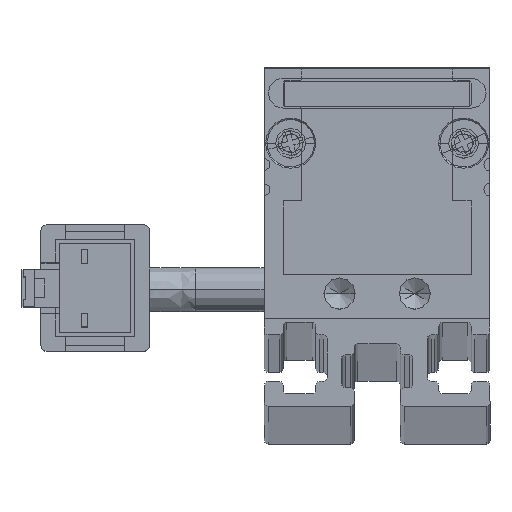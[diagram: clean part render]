
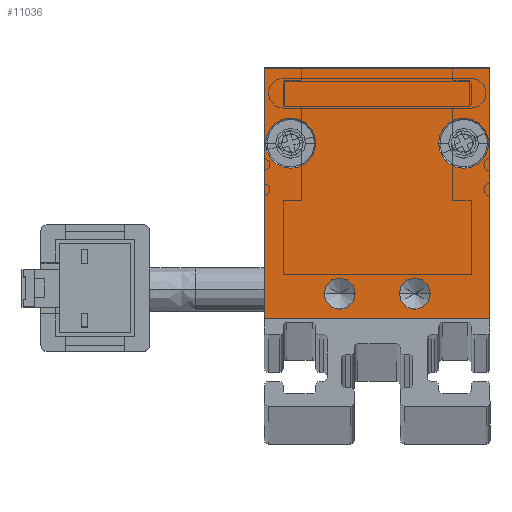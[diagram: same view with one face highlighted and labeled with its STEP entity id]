
A CAD part, top view. The second image highlights one B-rep face of the part: STEP entity #11036.
In plain terms, the highlighted planar face has unit normal (0, 0, 1) as drawn and (0, 0, -1) by its records, which use the part's own axes.
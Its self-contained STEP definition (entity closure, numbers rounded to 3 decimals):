
#34 = CIRCLE ( 'NONE', #10502, 2. ) ;
#263 = CARTESIAN_POINT ( 'NONE',  ( 3., 2., -2.5 ) ) ;
#325 = FACE_BOUND ( 'NONE', #3192, .T. ) ;
#360 = DIRECTION ( 'NONE',  ( 0., 0., -1. ) ) ;
#836 = DIRECTION ( 'NONE',  ( -1., 0., 0. ) ) ;
#1011 = EDGE_CURVE ( 'NONE', #1300, #10437, #1738, .T. ) ;
#1045 = CIRCLE ( 'NONE', #9888, 1.25 ) ;
#1278 = CARTESIAN_POINT ( 'NONE',  ( -8.9, 14., -2.5 ) ) ;
#1279 = FACE_BOUND ( 'NONE', #3815, .T. ) ;
#1300 = VERTEX_POINT ( 'NONE', #10278 ) ;
#1455 = CIRCLE ( 'NONE', #5895, 1.25 ) ;
#1738 = CIRCLE ( 'NONE', #12214, 1.25 ) ;
#1764 = VERTEX_POINT ( 'NONE', #7297 ) ;
#1920 = VERTEX_POINT ( 'NONE', #6787 ) ;
#2031 = ORIENTED_EDGE ( 'NONE', *, *, #11237, .F. ) ;
#2034 = DIRECTION ( 'NONE',  ( -1., 0., 0. ) ) ;
#2064 = CARTESIAN_POINT ( 'NONE',  ( -6.9, 14., -2.5 ) ) ;
#2213 = VECTOR ( 'NONE', #12119, 1000. ) ;
#2227 = VERTEX_POINT ( 'NONE', #6112 ) ;
#2325 = CARTESIAN_POINT ( 'NONE',  ( 9., 20., -2.5 ) ) ;
#2377 = DIRECTION ( 'NONE',  ( -1., 0., 0. ) ) ;
#2385 = CARTESIAN_POINT ( 'NONE',  ( -9., 20., -2.5 ) ) ;
#2551 = AXIS2_PLACEMENT_3D ( 'NONE', #2064, #11722, #10773 ) ;
#2591 = DIRECTION ( 'NONE',  ( -1., 0., 0. ) ) ;
#2655 = DIRECTION ( 'NONE',  ( -1., 0., 0. ) ) ;
#2731 = ORIENTED_EDGE ( 'NONE', *, *, #9345, .F. ) ;
#2755 = AXIS2_PLACEMENT_3D ( 'NONE', #10925, #6126, #4105 ) ;
#2775 = ORIENTED_EDGE ( 'NONE', *, *, #9805, .F. ) ;
#2839 = CARTESIAN_POINT ( 'NONE',  ( 3., 2., -2.5 ) ) ;
#2840 = VERTEX_POINT ( 'NONE', #9221 ) ;
#2933 = VERTEX_POINT ( 'NONE', #1278 ) ;
#2941 = CARTESIAN_POINT ( 'NONE',  ( -9., 20., -2.5 ) ) ;
#2982 = EDGE_CURVE ( 'NONE', #5891, #3345, #8604, .T. ) ;
#3192 = EDGE_LOOP ( 'NONE', ( #2731, #4767 ) ) ;
#3314 = ORIENTED_EDGE ( 'NONE', *, *, #9404, .F. ) ;
#3345 = VERTEX_POINT ( 'NONE', #6923 ) ;
#3383 = DIRECTION ( 'NONE',  ( 0., 1., 0. ) ) ;
#3766 = CIRCLE ( 'NONE', #2551, 2. ) ;
#3772 = EDGE_CURVE ( 'NONE', #2933, #1920, #3766, .T. ) ;
#3815 = EDGE_LOOP ( 'NONE', ( #5396, #3314 ) ) ;
#4010 = AXIS2_PLACEMENT_3D ( 'NONE', #10461, #5424, #10336 ) ;
#4030 = CIRCLE ( 'NONE', #11698, 2. ) ;
#4043 = DIRECTION ( 'NONE',  ( 1., 0., 0. ) ) ;
#4063 = AXIS2_PLACEMENT_3D ( 'NONE', #9087, #6009, #4043 ) ;
#4101 = EDGE_CURVE ( 'NONE', #10179, #4540, #4610, .T. ) ;
#4105 = DIRECTION ( 'NONE',  ( -1., 0., 0. ) ) ;
#4227 = FACE_BOUND ( 'NONE', #4513, .T. ) ;
#4513 = EDGE_LOOP ( 'NONE', ( #2031, #10595 ) ) ;
#4540 = VERTEX_POINT ( 'NONE', #2941 ) ;
#4606 = CARTESIAN_POINT ( 'NONE',  ( -6.9, 14., -2.5 ) ) ;
#4610 = LINE ( 'NONE', #7454, #8009 ) ;
#4767 = ORIENTED_EDGE ( 'NONE', *, *, #7423, .F. ) ;
#5005 = FACE_OUTER_BOUND ( 'NONE', #9210, .T. ) ;
#5225 = CIRCLE ( 'NONE', #4010, 1.25 ) ;
#5230 = LINE ( 'NONE', #2325, #7480 ) ;
#5396 = ORIENTED_EDGE ( 'NONE', *, *, #3772, .F. ) ;
#5419 = DIRECTION ( 'NONE',  ( 0., -1., 0. ) ) ;
#5424 = DIRECTION ( 'NONE',  ( 0., 0., -1. ) ) ;
#5720 = CARTESIAN_POINT ( 'NONE',  ( 1.75, 2., -2.5 ) ) ;
#5751 = DIRECTION ( 'NONE',  ( 0., 0., -1. ) ) ;
#5835 = ORIENTED_EDGE ( 'NONE', *, *, #2982, .F. ) ;
#5885 = DIRECTION ( 'NONE',  ( 0., 0., -1. ) ) ;
#5891 = VERTEX_POINT ( 'NONE', #9974 ) ;
#5895 = AXIS2_PLACEMENT_3D ( 'NONE', #2839, #5751, #836 ) ;
#6009 = DIRECTION ( 'NONE',  ( 0., 0., 1. ) ) ;
#6112 = CARTESIAN_POINT ( 'NONE',  ( -9., 0., -2.5 ) ) ;
#6126 = DIRECTION ( 'NONE',  ( 0., 0., -1. ) ) ;
#6302 = LINE ( 'NONE', #8070, #2213 ) ;
#6439 = CARTESIAN_POINT ( 'NONE',  ( -3., 2., -2.5 ) ) ;
#6490 = EDGE_CURVE ( 'NONE', #2227, #1764, #6302, .T. ) ;
#6568 = DIRECTION ( 'NONE',  ( -1., 0., 0. ) ) ;
#6615 = ORIENTED_EDGE ( 'NONE', *, *, #9782, .F. ) ;
#6787 = CARTESIAN_POINT ( 'NONE',  ( -4.9, 14., -2.5 ) ) ;
#6923 = CARTESIAN_POINT ( 'NONE',  ( 8.9, 14., -2.5 ) ) ;
#6926 = EDGE_CURVE ( 'NONE', #3345, #5891, #4030, .T. ) ;
#7071 = ORIENTED_EDGE ( 'NONE', *, *, #6490, .F. ) ;
#7297 = CARTESIAN_POINT ( 'NONE',  ( 9., 0., -2.5 ) ) ;
#7423 = EDGE_CURVE ( 'NONE', #8536, #2840, #5225, .T. ) ;
#7454 = CARTESIAN_POINT ( 'NONE',  ( -9., 20., -2.5 ) ) ;
#7480 = VECTOR ( 'NONE', #3383, 1000. ) ;
#7891 = FACE_BOUND ( 'NONE', #8785, .T. ) ;
#8009 = VECTOR ( 'NONE', #2591, 1000. ) ;
#8070 = CARTESIAN_POINT ( 'NONE',  ( -9., 0., -2.5 ) ) ;
#8536 = VERTEX_POINT ( 'NONE', #10899 ) ;
#8604 = CIRCLE ( 'NONE', #2755, 2. ) ;
#8785 = EDGE_LOOP ( 'NONE', ( #5835, #11561 ) ) ;
#9087 = CARTESIAN_POINT ( 'NONE',  ( 0., 0., -2.5 ) ) ;
#9135 = LINE ( 'NONE', #2385, #11112 ) ;
#9210 = EDGE_LOOP ( 'NONE', ( #6615, #9475, #2775, #7071 ) ) ;
#9221 = CARTESIAN_POINT ( 'NONE',  ( -4.25, 2., -2.5 ) ) ;
#9340 = DIRECTION ( 'NONE',  ( 0., 0., -1. ) ) ;
#9345 = EDGE_CURVE ( 'NONE', #2840, #8536, #1045, .T. ) ;
#9404 = EDGE_CURVE ( 'NONE', #1920, #2933, #34, .T. ) ;
#9475 = ORIENTED_EDGE ( 'NONE', *, *, #4101, .F. ) ;
#9782 = EDGE_CURVE ( 'NONE', #4540, #2227, #9135, .T. ) ;
#9805 = EDGE_CURVE ( 'NONE', #1764, #10179, #5230, .T. ) ;
#9888 = AXIS2_PLACEMENT_3D ( 'NONE', #6439, #9340, #2655 ) ;
#9936 = CARTESIAN_POINT ( 'NONE',  ( 9., 20., -2.5 ) ) ;
#9974 = CARTESIAN_POINT ( 'NONE',  ( 4.9, 14., -2.5 ) ) ;
#10030 = PLANE ( 'NONE',  #4063 ) ;
#10179 = VERTEX_POINT ( 'NONE', #9936 ) ;
#10278 = CARTESIAN_POINT ( 'NONE',  ( 4.25, 2., -2.5 ) ) ;
#10336 = DIRECTION ( 'NONE',  ( -1., 0., 0. ) ) ;
#10437 = VERTEX_POINT ( 'NONE', #5720 ) ;
#10461 = CARTESIAN_POINT ( 'NONE',  ( -3., 2., -2.5 ) ) ;
#10502 = AXIS2_PLACEMENT_3D ( 'NONE', #4606, #12323, #6568 ) ;
#10595 = ORIENTED_EDGE ( 'NONE', *, *, #1011, .F. ) ;
#10773 = DIRECTION ( 'NONE',  ( -1., 0., 0. ) ) ;
#10899 = CARTESIAN_POINT ( 'NONE',  ( -1.75, 2., -2.5 ) ) ;
#10925 = CARTESIAN_POINT ( 'NONE',  ( 6.9, 14., -2.5 ) ) ;
#11036 = ADVANCED_FACE ( 'NONE', ( #7891, #1279, #4227, #325, #5005 ), #10030, .F. ) ;
#11112 = VECTOR ( 'NONE', #5419, 1000. ) ;
#11237 = EDGE_CURVE ( 'NONE', #10437, #1300, #1455, .T. ) ;
#11561 = ORIENTED_EDGE ( 'NONE', *, *, #6926, .F. ) ;
#11698 = AXIS2_PLACEMENT_3D ( 'NONE', #11853, #360, #2377 ) ;
#11722 = DIRECTION ( 'NONE',  ( 0., 0., -1. ) ) ;
#11853 = CARTESIAN_POINT ( 'NONE',  ( 6.9, 14., -2.5 ) ) ;
#12119 = DIRECTION ( 'NONE',  ( 1., 0., 0. ) ) ;
#12214 = AXIS2_PLACEMENT_3D ( 'NONE', #263, #5885, #2034 ) ;
#12323 = DIRECTION ( 'NONE',  ( 0., 0., -1. ) ) ;
